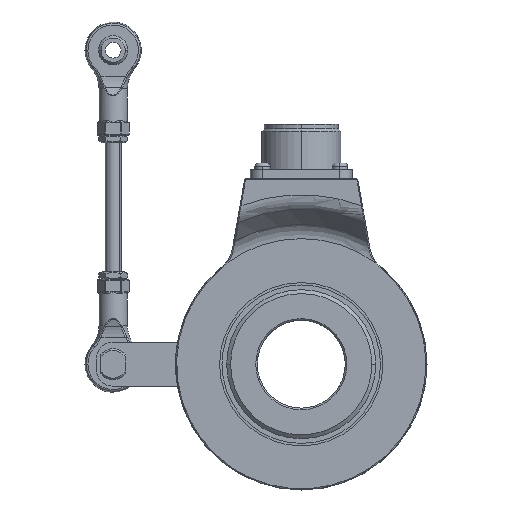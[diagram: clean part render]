
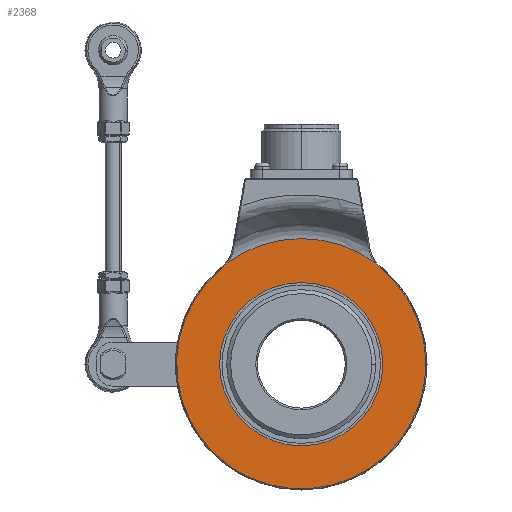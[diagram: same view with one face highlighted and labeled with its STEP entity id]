
A CAD part, left-side view. The second image highlights one B-rep face of the part: STEP entity #2368.
In plain terms, the highlighted planar face has unit normal (-1, 0, 0).
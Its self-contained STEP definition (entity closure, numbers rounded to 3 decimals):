
#349 = EDGE_CURVE ( 'NONE', #21429, #13976, #6152, .T. ) ;
#1115 = CIRCLE ( 'NONE', #26049, 40. ) ;
#1464 = DIRECTION ( 'NONE',  ( 0., 0., -1. ) ) ;
#1632 = DIRECTION ( 'NONE',  ( 0., 0., -1. ) ) ;
#2368 = ADVANCED_FACE ( 'NONE', ( #23315, #5482 ), #8130, .T. ) ;
#3454 = VERTEX_POINT ( 'NONE', #21598 ) ;
#3797 = AXIS2_PLACEMENT_3D ( 'NONE', #3840, #21830, #1632 ) ;
#3840 = CARTESIAN_POINT ( 'NONE',  ( -26., 0., 0. ) ) ;
#5482 = FACE_OUTER_BOUND ( 'NONE', #19591, .T. ) ;
#6152 = CIRCLE ( 'NONE', #3797, 26. ) ;
#6626 = DIRECTION ( 'NONE',  ( 0., 0., -1. ) ) ;
#6704 = CARTESIAN_POINT ( 'NONE',  ( -26., 0., -26. ) ) ;
#6836 = AXIS2_PLACEMENT_3D ( 'NONE', #24014, #26950, #6626 ) ;
#7052 = CIRCLE ( 'NONE', #7999, 39.7 ) ;
#7608 = AXIS2_PLACEMENT_3D ( 'NONE', #21209, #27680, #7634 ) ;
#7634 = DIRECTION ( 'NONE',  ( 0., 0., -1. ) ) ;
#7774 = EDGE_LOOP ( 'NONE', ( #13361, #20893 ) ) ;
#7834 = CARTESIAN_POINT ( 'NONE',  ( -26., 0., 0. ) ) ;
#7949 = DIRECTION ( 'NONE',  ( -1., 0., 0. ) ) ;
#7999 = AXIS2_PLACEMENT_3D ( 'NONE', #10724, #28702, #22239 ) ;
#8130 = PLANE ( 'NONE',  #21074 ) ;
#8759 = DIRECTION ( 'NONE',  ( -1., 0., 0. ) ) ;
#8984 = ORIENTED_EDGE ( 'NONE', *, *, #20264, .T. ) ;
#10112 = EDGE_CURVE ( 'NONE', #27811, #15983, #7052, .T. ) ;
#10516 = CARTESIAN_POINT ( 'NONE',  ( -26., 0., 0. ) ) ;
#10724 = CARTESIAN_POINT ( 'NONE',  ( -26., 0., 0. ) ) ;
#10993 = CARTESIAN_POINT ( 'NONE',  ( -26., -25.207, 30.671 ) ) ;
#11172 = ORIENTED_EDGE ( 'NONE', *, *, #10112, .T. ) ;
#11268 = CARTESIAN_POINT ( 'NONE',  ( -26., 25.207, 30.671 ) ) ;
#11856 = VERTEX_POINT ( 'NONE', #26373 ) ;
#12234 = DIRECTION ( 'NONE',  ( 0., 0., -1. ) ) ;
#12374 = DIRECTION ( 'NONE',  ( -1., 0., 0. ) ) ;
#13008 = EDGE_CURVE ( 'NONE', #13976, #21429, #26944, .T. ) ;
#13110 = CARTESIAN_POINT ( 'NONE',  ( -26., 0., 26. ) ) ;
#13311 = EDGE_CURVE ( 'NONE', #3454, #27811, #16599, .T. ) ;
#13361 = ORIENTED_EDGE ( 'NONE', *, *, #13008, .F. ) ;
#13976 = VERTEX_POINT ( 'NONE', #6704 ) ;
#15761 = CIRCLE ( 'NONE', #6836, 10.3 ) ;
#15983 = VERTEX_POINT ( 'NONE', #10993 ) ;
#16599 = CIRCLE ( 'NONE', #7608, 10.3 ) ;
#17530 = EDGE_CURVE ( 'NONE', #15983, #11856, #15761, .T. ) ;
#17880 = DIRECTION ( 'NONE',  ( 0., 0., -1. ) ) ;
#19591 = EDGE_LOOP ( 'NONE', ( #11172, #27948, #8984, #21083 ) ) ;
#20264 = EDGE_CURVE ( 'NONE', #11856, #3454, #1115, .T. ) ;
#20893 = ORIENTED_EDGE ( 'NONE', *, *, #349, .F. ) ;
#21074 = AXIS2_PLACEMENT_3D ( 'NONE', #7834, #12374, #12234 ) ;
#21083 = ORIENTED_EDGE ( 'NONE', *, *, #13311, .T. ) ;
#21209 = CARTESIAN_POINT ( 'NONE',  ( -26., 31.746, 38.629 ) ) ;
#21429 = VERTEX_POINT ( 'NONE', #13110 ) ;
#21598 = CARTESIAN_POINT ( 'NONE',  ( -26., 23.654, 32.257 ) ) ;
#21830 = DIRECTION ( 'NONE',  ( -1., 0., 0. ) ) ;
#22239 = DIRECTION ( 'NONE',  ( 0., 0., -1. ) ) ;
#23315 = FACE_BOUND ( 'NONE', #7774, .T. ) ;
#24014 = CARTESIAN_POINT ( 'NONE',  ( -26., -31.746, 38.629 ) ) ;
#26049 = AXIS2_PLACEMENT_3D ( 'NONE', #28273, #7949, #1464 ) ;
#26373 = CARTESIAN_POINT ( 'NONE',  ( -26., -23.654, 32.257 ) ) ;
#26474 = AXIS2_PLACEMENT_3D ( 'NONE', #10516, #8759, #17880 ) ;
#26944 = CIRCLE ( 'NONE', #26474, 26. ) ;
#26950 = DIRECTION ( 'NONE',  ( 1., 0., 0. ) ) ;
#27680 = DIRECTION ( 'NONE',  ( 1., 0., 0. ) ) ;
#27811 = VERTEX_POINT ( 'NONE', #11268 ) ;
#27948 = ORIENTED_EDGE ( 'NONE', *, *, #17530, .T. ) ;
#28273 = CARTESIAN_POINT ( 'NONE',  ( -26., 0., 0. ) ) ;
#28702 = DIRECTION ( 'NONE',  ( -1., 0., 0. ) ) ;
